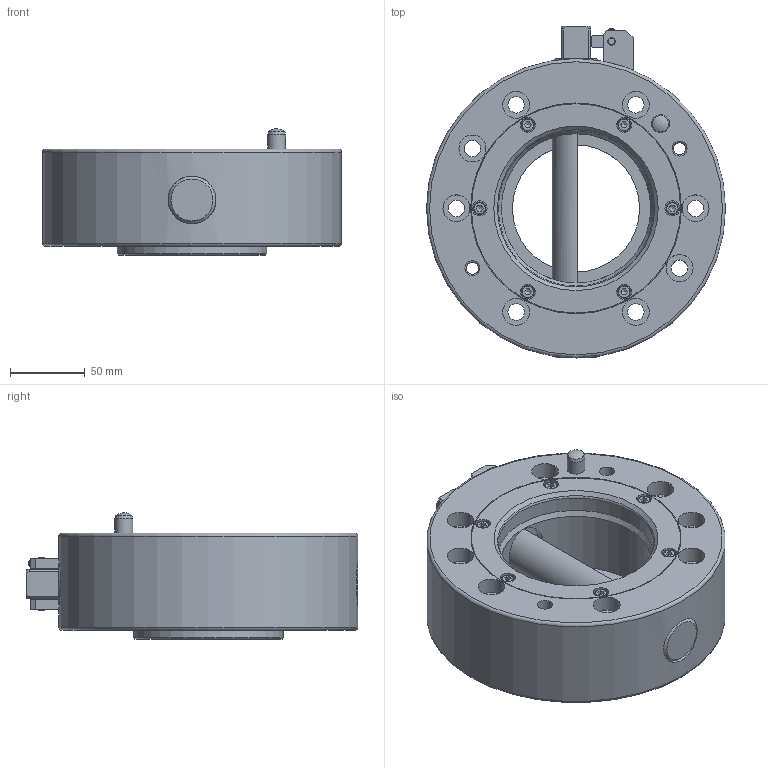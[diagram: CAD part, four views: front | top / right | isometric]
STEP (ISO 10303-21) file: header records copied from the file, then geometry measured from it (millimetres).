
FILE_DESCRIPTION(/* description */ (''),/* implementation_level */ '2;1');
FILE_NAME(/* name */ '\\dc01\daten\CAD\Standard\Daten\3D-Datenbank\SWS\4 - 3D-CAD-Daten SWS 050-160\SWS200\step-Daten\G-SWS200-2O-N.stp',/* time_stamp */ '2015-01-29T09:58:53+01:00',/* author */ ('ysplieth'),/* organization */ ('GRIP GmbH'),/* preprocessor_version */ 'ST-DEVELOPER v15.2',/* originating_system */ 'Autodesk Inventor 2014',/* authorisation */ '');
FILE_SCHEMA (('AUTOMOTIVE_DESIGN { 1 0 10303 214 3 1 1 }'));
Length unit declared in the file: millimetre
Products named in the file (1): Bauteil3
Bounding box: 200 x 222 x 84.43 mm (x, y, z)
Volume: 1523140.4 mm3; surface area: 173399.4 mm2
Topology: 2 solids, 13 shells, 342 faces, 808 edges, 519 vertices
Faces by surface type: plane 160, cylinder 109, cone 51, torus 20, sphere 2
Full cylindrical faces by diameter (mm): 3.242 x2, 3.3 x1, 4 x3, 4.134 x6, 4.5 x2, 5 x9, 5.1 x2, 5.5 x7, 6.647 x2, 7 x2, 8 x4, 8.5 x6, 9 x1, 10 x13, 11 x8, 12 x2, 18 x8, 32 x3, 85 x1, 100 x2, 104 x1, 120 x2, 140 x1, 141 x1, 200 x1
Entity records: 9481 total; most frequent: CARTESIAN_POINT 2246, DIRECTION 1432, ORIENTED_EDGE 1170, AXIS2_PLACEMENT_3D 607, EDGE_CURVE 583, EDGE_LOOP 576, VERTEX_POINT 451, STYLED_ITEM 344
